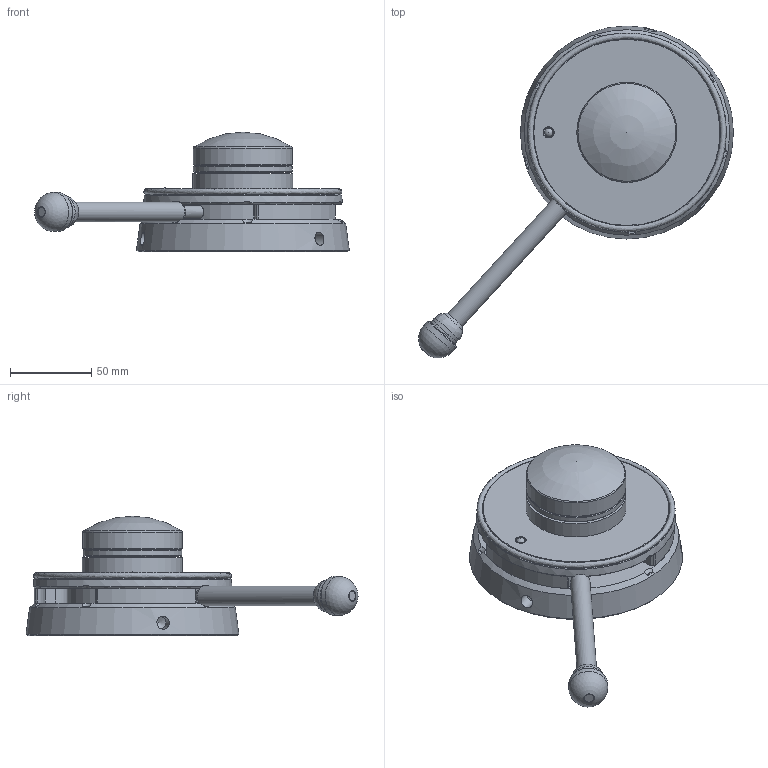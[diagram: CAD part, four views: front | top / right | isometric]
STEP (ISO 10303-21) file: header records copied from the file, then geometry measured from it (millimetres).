
FILE_DESCRIPTION(/* description */ (''),/* implementation_level */ '2;1');
FILE_NAME(/* name */ '577440-010_A-AT500 Absolute Tracker Mockup external.stp',/* time_stamp */ '2021-12-13T13:55:10+01:00',/* author */ (''),/* organization */ (''),/* preprocessor_version */ 'ST-DEVELOPER v18.1',/* originating_system */ 'SIEMENS PLM Software NX 1969',/* authorisation */ '');
FILE_SCHEMA (('AUTOMOTIVE_DESIGN { 1 0 10303 214 3 1 1 1 }'));
Length unit declared in the file: millimetre
Products named in the file (1): FUSI406810BD1p1m
Bounding box: 193.2 x 203.78 x 73.31 mm (x, y, z)
Volume: 2412.6 mm3; surface area: 83502.7 mm2
Topology: 9 solids, 10 shells, 355 faces, 820 edges, 506 vertices
Faces by surface type: plane 151, cone 102, cylinder 78, torus 16, bspline 5, sphere 3
Full cylindrical faces by diameter (mm): 6 x1, 6.8 x8, 7.5 x1, 7.65 x1, 8 x4, 8.15 x1, 8.4 x6, 12 x1, 13 x6, 14 x6, 15 x6, 20 x2, 20.2 x1, 24 x1, 31.8 x1, 60.8 x1, 61 x1, 61.5 x1, 85.75 x1
Entity records: 10114 total; most frequent: CARTESIAN_POINT 2142, DIRECTION 1572, ORIENTED_EDGE 1214, AXIS2_PLACEMENT_3D 699, EDGE_CURVE 607, EDGE_LOOP 514, VERTEX_POINT 433, ADVANCED_FACE 355
